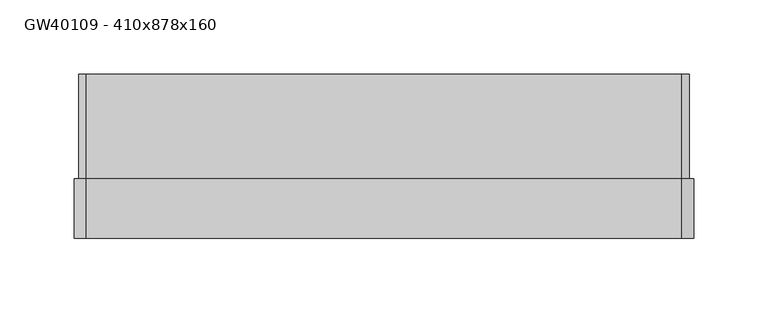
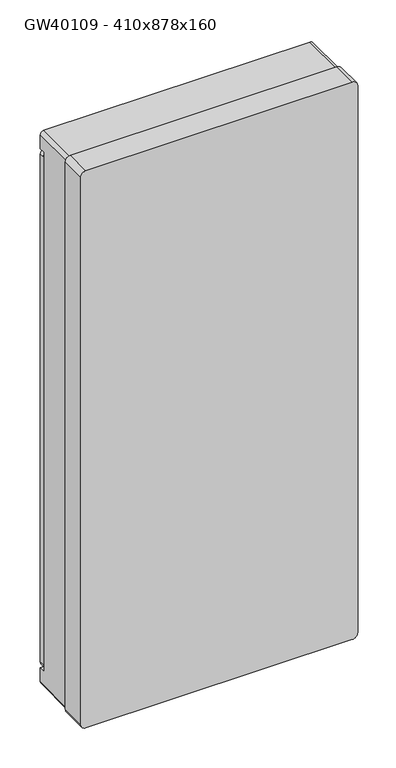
"""IFC4 building model written with IfcOpenShell, lengths in millimetres: proxy geometry, Building-ContenitoriParete-GEWISS-40CDK-CENTRALINI_IP65_4X : GW40109 - 410x878x160."""

import ifcopenshell
import ifcopenshell.guid

model = None  # the IFC model being written
_history = None  # IfcOwnerHistory: only IFC2X3 demands one
_inside = {}  # id of a spatial element -> (the spatial element, [elements in it])
_under = {}  # id of a project, library or spatial element -> (it, [spatial elements below it])
_declared = {}  # id of a project -> (the project, [libraries it declares])
_typed = {}  # id of a type object -> (the type object, [elements of that type])
_made_of = {}  # id of a material, layer set ... -> (it, [elements and type objects made of it])


def new_model(schema):
    """Start an empty IFC model of exactly this schema.

    Asked for "IFC4X3", IfcOpenShell would pick the latest addendum, in which some entities
    have other attributes; the version numbers below select the first issue.
    IFC2X3 requires an IfcOwnerHistory on every rooted entity: one is made here for all.
    """
    global model, _history
    if schema == "IFC4X3":
        model = ifcopenshell.file(schema_version=(4, 3, 0, 0))
    else:
        model = ifcopenshell.file(schema=schema)
    _inside.clear()
    _under.clear()
    _declared.clear()
    _typed.clear()
    _made_of.clear()
    _history = None
    if model.schema == "IFC2X3":
        org = make("IfcOrganization", Name="unknown")
        user = make(
            "IfcPersonAndOrganization",
            ThePerson=make("IfcPerson", FamilyName="unknown"),
            TheOrganization=org,
        )
        app = make(
            "IfcApplication",
            ApplicationDeveloper=org,
            Version="unknown",
            ApplicationFullName="unknown",
            ApplicationIdentifier="unknown",
        )
        _history = make(
            "IfcOwnerHistory",
            OwningUser=user,
            OwningApplication=app,
            ChangeAction="ADDED",
            CreationDate=0,
        )
    return model


def make(cls, **values):
    """One entity of the class cls with the attributes given. An attribute that is None is left unset."""
    return model.create_entity(
        cls, **{name: value for name, value in values.items() if value is not None}
    )


def rooted(cls, **values):
    """An entity with a GlobalId (a new one), such as an element, a storey or a relation."""
    return make(cls, GlobalId=ifcopenshell.guid.new(), OwnerHistory=_history, **values)


def si_unit(unit_type, name, prefix=None):
    """IfcSIUnit, for example si_unit("LENGTHUNIT", "METRE", prefix="MILLI")."""
    return make("IfcSIUnit", UnitType=unit_type, Prefix=prefix, Name=name)


def assignment(units):
    """IfcUnitAssignment: the units of a project."""
    return None if units is None else make("IfcUnitAssignment", Units=units)


def point(xyz):
    """IfcCartesianPoint."""
    return None if xyz is None else make("IfcCartesianPoint", Coordinates=xyz)


def direction(xyz):
    """IfcDirection."""
    return None if xyz is None else make("IfcDirection", DirectionRatios=xyz)


def frame(location, z_axis=None, x_axis=None):
    """IfcAxis2Placement3D, a coordinate frame: its origin and axes. An axis left out is left unset."""
    return make(
        "IfcAxis2Placement3D",
        Location=point(location),
        Axis=direction(z_axis),
        RefDirection=direction(x_axis),
    )


def frame_2d(location, x_axis=None):
    """IfcAxis2Placement2D, a coordinate frame in the plane: its origin and x axis."""
    return make(
        "IfcAxis2Placement2D", Location=point(location), RefDirection=direction(x_axis)
    )


def origin():
    """The frame at (0, 0, 0) with its axes left unset."""
    return frame((0.0, 0.0, 0.0))


def place(relative_to, where):
    """IfcLocalPlacement: puts the frame where relative to a parent placement (None: the world)."""
    return make(
        "IfcLocalPlacement", PlacementRelTo=relative_to, RelativePlacement=where
    )


def context(
    kind, dimensions, precision=None, world=None, true_north=None, identifier=None
):
    """IfcGeometricRepresentationContext, for example the 3D "Model" context."""
    return make(
        "IfcGeometricRepresentationContext",
        ContextIdentifier=identifier,
        ContextType=kind,
        CoordinateSpaceDimension=dimensions,
        Precision=precision,
        WorldCoordinateSystem=world,
        TrueNorth=true_north,
    )


def project(units=None, contexts=None):
    """IfcProject with its units and contexts."""
    return rooted(
        "IfcProject",
        Name="project",
        RepresentationContexts=contexts,
        UnitsInContext=assignment(units),
    )


def spatial(cls, under=None, at=None, **own):
    """A site, building, storey or space (cls), placed at a placement, below another one or the project."""
    s = rooted(cls, ObjectPlacement=at, **own)
    if under is not None:
        _under.setdefault(under.id(), (under, []))[1].append(s)
    return s


def polyline(points):
    """IfcPolyline through the points."""
    return make("IfcPolyline", Points=[point(p) for p in points])


def circle_curve(where, radius):
    """IfcCircle in the frame where."""
    return make("IfcCircle", Position=where, Radius=radius)


def trimmed(basis, trim1, trim2, sense, master):
    """IfcTrimmedCurve: the piece of a basis curve between two trims."""
    return make(
        "IfcTrimmedCurve",
        BasisCurve=basis,
        Trim1=trim1,
        Trim2=trim2,
        SenseAgreement=sense,
        MasterRepresentation=master,
    )


def segment(curve, same_sense, transition):
    """IfcCompositeCurveSegment."""
    return make(
        "IfcCompositeCurveSegment",
        Transition=transition,
        SameSense=same_sense,
        ParentCurve=curve,
    )


def composite_curve(segments, self_intersect=None):
    """IfcCompositeCurve: segments joined end to end."""
    return make("IfcCompositeCurve", Segments=segments, SelfIntersect=self_intersect)


def outline(outer, holes=None, kind="AREA"):
    """IfcArbitraryClosedProfileDef: a profile drawn as a closed curve; with holes, ...WithVoids."""
    if holes is None:
        return make("IfcArbitraryClosedProfileDef", ProfileType=kind, OuterCurve=outer)
    return make(
        "IfcArbitraryProfileDefWithVoids",
        ProfileType=kind,
        OuterCurve=outer,
        InnerCurves=holes,
    )


def extrude(swept, where, along, depth):
    """IfcExtrudedAreaSolid: the profile swept, set in the frame where, extruded along a direction by depth."""
    return make(
        "IfcExtrudedAreaSolid",
        SweptArea=swept,
        Position=where,
        ExtrudedDirection=direction(along),
        Depth=depth,
    )


def shape(context_of_items, identifier, shape_type, items):
    """IfcShapeRepresentation: the items that make up one representation, for example the "Body"."""
    return make(
        "IfcShapeRepresentation",
        ContextOfItems=context_of_items,
        RepresentationIdentifier=identifier,
        RepresentationType=shape_type,
        Items=items,
    )


def source(mapping_origin, context_of_items, identifier, shape_type, items):
    """IfcRepresentationMap: a shape defined once, which mapped items show again and again."""
    return make(
        "IfcRepresentationMap",
        MappingOrigin=mapping_origin,
        MappedRepresentation=shape(context_of_items, identifier, shape_type, items),
    )


def transform(
    local_origin,
    x_axis=None,
    y_axis=None,
    z_axis=None,
    scale=None,
    scale2=None,
    scale3=None,
    uniform=True,
):
    """IfcCartesianTransformationOperator3D, or its non-uniform kind. x_axis, y_axis, z_axis: its Axis1, 2, 3."""
    if uniform:
        return make(
            "IfcCartesianTransformationOperator3D",
            Axis1=direction(x_axis),
            Axis2=direction(y_axis),
            LocalOrigin=point(local_origin),
            Scale=scale,
            Axis3=direction(z_axis),
        )
    return make(
        "IfcCartesianTransformationOperator3DnonUniform",
        Axis1=direction(x_axis),
        Axis2=direction(y_axis),
        LocalOrigin=point(local_origin),
        Scale=scale,
        Axis3=direction(z_axis),
        Scale2=scale2,
        Scale3=scale3,
    )


def mapped(mapping_source, mapping_target):
    """IfcMappedItem: shows the shape of a source again, moved by a transform."""
    return make(
        "IfcMappedItem", MappingSource=mapping_source, MappingTarget=mapping_target
    )


def made_of(thing, what):
    """Note that an element or type object is made of a material, layer set ...; save() writes the relation."""
    if what is not None:
        _made_of.setdefault(what.id(), (what, []))[1].append(thing)
    return thing


def element(
    cls,
    number,
    at=None,
    inside=None,
    cuts=None,
    type_object=None,
    material=None,
    context=None,
    identifier="Body",
    shape_type=None,
    held_by="IfcProductDefinitionShape",
    body=None,
    shapes=None,
    **own,
):
    """One element of the class cls, such as IfcWall. Its Tag is "e" and its number.

    at: its placement. inside: the storey or other place that contains it. cuts: it is an
    opening in that element (IfcRelVoidsElement). A single representation is given by context,
    identifier, shape_type and body (its items); several are given by shapes. held_by: the class
    of the entity that holds the representations. save() writes the other relations.
    """
    e = rooted(cls, Tag="e%d" % number, ObjectPlacement=at, **own)
    if body is not None:
        shapes = [shape(context, identifier, shape_type, body)]
    if shapes is not None:
        e.Representation = make(held_by, Representations=shapes)
    if inside is not None:
        _inside.setdefault(inside.id(), (inside, []))[1].append(e)
    if cuts is not None:
        rooted(
            "IfcRelVoidsElement", RelatingBuildingElement=cuts, RelatedOpeningElement=e
        )
    if type_object is not None:
        _typed.setdefault(type_object.id(), (type_object, []))[1].append(e)
    return made_of(e, material)


def aggregate(whole, parts):
    """IfcRelAggregates: a whole, such as a stair, and the parts it consists of."""
    return rooted("IfcRelAggregates", RelatingObject=whole, RelatedObjects=parts)


def save(model, path):
    """Write the relations noted so far, then the file.

    IfcRelAggregates (storeys below a building ...), IfcRelContainedInSpatialStructure (elements
    in a storey), IfcRelDefinesByType, IfcRelAssociatesMaterial and IfcRelDeclares: one each for
    every whole, place, type object, material and project.
    """
    for whole, parts in _under.values():
        aggregate(whole, parts)
    for where, things in _inside.values():
        rooted(
            "IfcRelContainedInSpatialStructure",
            RelatedElements=things,
            RelatingStructure=where,
        )
    for kind, things in _typed.values():
        rooted("IfcRelDefinesByType", RelatedObjects=things, RelatingType=kind)
    for what, things in _made_of.values():
        rooted("IfcRelAssociatesMaterial", RelatedObjects=things, RelatingMaterial=what)
    for by, libraries in _declared.values():
        rooted("IfcRelDeclares", RelatingContext=by, RelatedDefinitions=libraries)
    model.write(path)


def plane_surface(at):
    """IfcPlane: the flat surface through the origin of the frame at, square to its z axis."""
    return make("IfcPlane", Position=at)


def cylinder_surface(at, radius):
    """IfcCylindricalSurface: all points at the distance radius from the z axis of the frame at."""
    return make("IfcCylindricalSurface", Position=at, Radius=radius)


def revolved_surface(curve, axis_point, axis_direction):
    """IfcSurfaceOfRevolution: the curve turned about the line through axis_point along axis_direction."""
    return make(
        "IfcSurfaceOfRevolution",
        SweptCurve=make("IfcArbitraryOpenProfileDef", ProfileType="CURVE", Curve=curve),
        AxisPosition=make("IfcAxis1Placement", Location=point(axis_point), Axis=direction(axis_direction)),
    )


def advanced_brep(points, edges, surfaces, faces):
    """IfcAdvancedBrep: a solid bounded by faces that lie on surfaces and meet in shared edges.

    An edge is (start, end): straight between two places in points (the first is 0);
    or (start, end, curve); or (start, end, curve, False) where it runs against its curve.
    A face is (place in surfaces, loops), or (place, loops, False) where it looks against
    its surface's normal. A loop lists edges by number (the first is 1), with a minus sign
    where the edge is run from its end to its start. The first loop is the outer one.
    """
    corners = [point(p) for p in points]
    vertices = [make("IfcVertexPoint", VertexGeometry=c) for c in corners]
    made = []
    for start, end, *more in edges:
        made.append(
            make(
                "IfcEdgeCurve",
                EdgeStart=vertices[start],
                EdgeEnd=vertices[end],
                EdgeGeometry=more[0] if more else make("IfcPolyline", Points=[corners[start], corners[end]]),
                SameSense=more[1] if len(more) > 1 else True,
            )
        )
    hull = []
    for where, loops, *sense in faces:
        bounds = []
        for j, loop in enumerate(loops):
            ring = [make("IfcOrientedEdge", EdgeElement=made[abs(k) - 1], Orientation=k > 0) for k in loop]
            bounds.append(
                make(
                    "IfcFaceOuterBound" if j == 0 else "IfcFaceBound",
                    Bound=make("IfcEdgeLoop", EdgeList=ring),
                    Orientation=True,
                )
            )
        hull.append(make("IfcAdvancedFace", Bounds=bounds, FaceSurface=surfaces[where], SameSense=sense[0] if sense else True))
    return make("IfcAdvancedBrep", Outer=make("IfcClosedShell", CfsFaces=hull))


def gw40109_410x878x160_c00fe912(model_context):
    return source(origin(), model_context, "Body", "SolidModel", [
        extrude(outline(composite_curve([segment(trimmed(circle_curve(frame_2d((1011.3733724, -40.3733724)), 19.6266276), [point((1031.0, -40.3733724))], [point((1011.3733724, -60.0))], False, "CARTESIAN"), True, "CONTINUOUS"), segment(polyline([(1011.3733724, -60.0), (266.6266276, -60.0)]), True, "CONTINUOUS"), segment(trimmed(circle_curve(frame_2d((266.6266276, -40.3733724)), 19.6266276), [point((266.6266276, -60.0))], [point((247.0, -40.3733724))], False, "CARTESIAN"), True, "CONTINUOUS"), segment(polyline([(247.0, -40.3733724), (247.0, 290.3733724)]), True, "CONTINUOUS"), segment(trimmed(circle_curve(frame_2d((266.6266276, 290.3733724)), 19.6266276), [point((247.0, 290.3733724))], [point((266.6266276, 310.0))], False, "CARTESIAN"), True, "CONTINUOUS"), segment(polyline([(266.6266276, 310.0), (1011.3733724, 310.0)]), True, "CONTINUOUS"), segment(trimmed(circle_curve(frame_2d((1011.3733724, 290.3733724)), 19.6266276), [point((1011.3733724, 310.0))], [point((1031.0, 290.3733724))], False, "CARTESIAN"), True, "CONTINUOUS"), segment(polyline([(1031.0, 290.3733724), (1031.0, -40.3733724)]), True, "CONTINUOUS")], self_intersect=False)), frame((0.0, 157.0, 0.0), z_axis=(0.0, 1.0, 0.0), x_axis=(0.0, 0.0, 1.0)), (0.0, 0.0, 1.0), 8.0),
        extrude(outline(composite_curve([segment(polyline([(1042.0809704, -80.0), (236.5623013, -80.0)]), True, "CONTINUOUS"), segment(trimmed(circle_curve(frame_2d((236.7791514, -70.2214952)), 9.780909), [point((236.5623013, -80.0))], [point((227.0, -70.4069096))], False, "CARTESIAN"), True, "CONTINUOUS"), segment(polyline([(227.0, -70.4069096), (227.0, 320.4151612)]), True, "CONTINUOUS"), segment(trimmed(circle_curve(frame_2d((236.775005, 320.2255854)), 9.7768431), [point((227.0, 320.4151612))], [point((236.5571034, 330.0))], False, "CARTESIAN"), True, "CONTINUOUS"), segment(polyline([(236.5571034, 330.0), (1041.9353881, 330.0)]), True, "CONTINUOUS"), segment(trimmed(circle_curve(frame_2d((1041.1918726, 320.2188831)), 9.8093355), [point((1041.9353881, 330.0))], [point((1051.0, 320.3728351))], False, "CARTESIAN"), True, "CONTINUOUS"), segment(polyline([(1051.0, 320.3728351), (1051.0, -70.379739)]), True, "CONTINUOUS"), segment(trimmed(circle_curve(frame_2d((1041.1876797, -70.2272359)), 9.8135053), [point((1051.0, -70.379739))], [point((1042.0809704, -80.0))], False, "CARTESIAN"), True, "CONTINUOUS")], self_intersect=False), holes=[composite_curve([segment(trimmed(circle_curve(frame_2d((1011.3733724, -40.3733724)), 19.6266276), [point((1011.3733724, -60.0))], [point((1031.0, -40.3733724))], True, "CARTESIAN"), True, "CONTINUOUS"), segment(polyline([(1031.0, -40.3733724), (1031.0, 290.3733724)]), True, "CONTINUOUS"), segment(trimmed(circle_curve(frame_2d((1011.3733724, 290.3733724)), 19.6266276), [point((1031.0, 290.3733724))], [point((1011.3733724, 310.0))], True, "CARTESIAN"), True, "CONTINUOUS"), segment(polyline([(1011.3733724, 310.0), (266.6266276, 310.0)]), True, "CONTINUOUS"), segment(trimmed(circle_curve(frame_2d((266.6266276, 290.3733724)), 19.6266276), [point((266.6266276, 310.0))], [point((247.0, 290.3733724))], True, "CARTESIAN"), True, "CONTINUOUS"), segment(polyline([(247.0, 290.3733724), (247.0, -40.3733724)]), True, "CONTINUOUS"), segment(trimmed(circle_curve(frame_2d((266.6266276, -40.3733724)), 19.6266276), [point((247.0, -40.3733724))], [point((266.6266276, -60.0))], True, "CARTESIAN"), True, "CONTINUOUS"), segment(polyline([(266.6266276, -60.0), (1011.3733724, -60.0)]), True, "CONTINUOUS")], self_intersect=False)]), frame((0.0, 157.0, 0.0), z_axis=(0.0, 1.0, 0.0), x_axis=(0.0, 0.0, 1.0)), (0.0, 0.0, 1.0), 8.0),
        extrude(outline(polyline([(1038.7618764, -62.8522893), (242.2618764, -62.8522893), (242.2618764, 312.8522893), (1038.7618764, 312.8522893), (1038.7618764, -62.8522893)]), holes=[polyline([(880.0, -33.0), (925.6623342, -33.0), (925.6623342, 283.0), (880.0, 283.0), (880.0, -33.0)]), polyline([(705.0, -33.0), (751.0, -33.0), (751.0, 283.0), (705.0, 283.0), (705.0, -33.0)]), polyline([(530.0, -33.0), (576.0, -33.0), (576.0, 283.0), (530.0, 283.0), (530.0, -33.0)]), polyline([(355.0, -33.0), (401.0, -33.0), (401.0, 283.0), (355.0, 283.0), (355.0, -33.0)])]), frame((0.0, 153.1667604, 0.0), z_axis=(0.0, 1.0, 0.0), x_axis=(0.0, 0.0, 1.0)), (0.0, 0.0, 1.0), 1.8332396),
        advanced_brep(
        [(-80.0, 165.0, 1051.0), (-80.0, 165.0, 1073.2013426), (-75.2013428, 165.0, 1077.9999999), (325.2013423, 165.0, 1077.9999999), (330.0, 165.0, 1073.2013422), (330.0, 165.0, 1051.0), (-75.2013425, 165.0, 200.0), (-80.0, 165.0, 204.7986575), (-80.0, 165.0, 227.0), (330.0, 165.0, 227.0), (330.0, 165.0, 204.7986577), (325.2013423, 165.0, 200.0), (330.0, 155.0, 1051.0), (-80.0, 155.0, 1051.0), (330.0, 95.0, 1073.2013422), (330.0, 95.0, 204.7986577), (330.0, 155.0, 227.0), (325.2013423, 95.0, 1077.9999999), (-75.2013428, 95.0, 1077.9999999), (-80.0, 95.0, 1073.2013426), (-80.0, 155.0, 227.0), (-80.0, 95.0, 204.7986575), (325.2013423, 95.0, 200.0), (-75.2013425, 95.0, 200.0), (-54.4460592, 155.0, 1040.7618764), (-64.8522893, 155.0, 1030.3556463), (-64.8522893, 155.0, 250.6618764), (-54.4522893, 155.0, 240.2618764), (304.4522893, 155.0, 240.2618764), (314.8522893, 155.0, 250.6618764), (314.8522893, 155.0, 1030.3556463), (304.4460592, 155.0, 1040.7618764), (304.4460592, 95.0, 1040.7618764), (-54.4460592, 95.0, 1040.7618764), (314.8522893, 95.0, 1030.3556463), (314.8522893, 95.0, 250.6618764), (304.4522893, 95.0, 240.2618764), (-54.4522893, 95.0, 240.2618764), (-64.8522893, 95.0, 250.6618764), (-64.8522893, 95.0, 1030.3556463), (333.0, 55.0, 1073.2013423), (325.2013423, 55.0, 1081.0), (-75.2013428, 55.0, 1081.0), (-83.0, 55.0, 1073.2013428), (-83.0, 55.0, 204.7986575), (-75.2013425, 55.0, 197.0), (325.2013423, 55.0, 197.0), (333.0, 55.0, 204.7986577), (333.0, 95.0, 1073.2013423), (333.0, 95.0, 204.7986577), (325.2013423, 95.0, 197.0), (-75.2013425, 95.0, 197.0), (-83.0, 95.0, 204.7986575), (-83.0, 95.0, 1073.2013428), (-75.2013428, 95.0, 1081.0), (325.2013423, 95.0, 1081.0)],
        [
            (0, 1),
            (1, 2, circle_curve(frame((-75.2013428, 165.0, 1073.2013426), z_axis=(0.0, 1.0, 0.0), x_axis=(1.0, 0.0, 0.0)), 4.7986572)),
            (2, 3),
            (3, 4, circle_curve(frame((325.2013423, 165.0, 1073.2013422), z_axis=(0.0, 1.0, 0.0), x_axis=(1.0, 0.0, 0.0)), 4.7986577)),
            (4, 5),
            (5, 0),
            (6, 7, circle_curve(frame((-75.2013425, 165.0, 204.7986575), z_axis=(0.0, 1.0, 0.0), x_axis=(1.0, 0.0, 0.0)), 4.7986575)),
            (7, 8),
            (8, 9),
            (9, 10),
            (10, 11, circle_curve(frame((325.2013423, 165.0, 204.7986577), z_axis=(0.0, 1.0, 0.0), x_axis=(1.0, 0.0, 0.0)), 4.7986577)),
            (11, 6),
            (5, 12),
            (12, 13),
            (13, 0),
            (4, 14),
            (14, 15),
            (15, 10),
            (9, 16),
            (16, 12),
            (3, 17),
            (17, 14, circle_curve(frame((325.2013423, 95.0, 1073.2013422), z_axis=(0.0, 1.0, 0.0), x_axis=(1.0, 0.0, 0.0)), 4.7986577)),
            (2, 18),
            (18, 17),
            (1, 19),
            (19, 18, circle_curve(frame((-75.2013428, 95.0, 1073.2013426), z_axis=(0.0, 1.0, 0.0), x_axis=(1.0, 0.0, 0.0)), 4.7986572)),
            (13, 20),
            (20, 8),
            (7, 21),
            (21, 19),
            (11, 22),
            (22, 23),
            (23, 6),
            (15, 22, circle_curve(frame((325.2013423, 95.0, 204.7986577), z_axis=(0.0, 1.0, 0.0), x_axis=(1.0, 0.0, 0.0)), 4.7986577)),
            (20, 16),
            (23, 21, circle_curve(frame((-75.2013425, 95.0, 204.7986575), z_axis=(0.0, 1.0, 0.0), x_axis=(1.0, 0.0, 0.0)), 4.7986575)),
            (24, 25, circle_curve(frame((-54.4460592, 155.0, 1030.3556463), z_axis=(0.0, -1.0, 0.0), x_axis=(1.0, 0.0, 0.0)), 10.40623)),
            (25, 26),
            (26, 27, circle_curve(frame((-54.4522893, 155.0, 250.6618764), z_axis=(0.0, -1.0, 0.0), x_axis=(1.0, 0.0, 0.0)), 10.4)),
            (27, 28),
            (28, 29, circle_curve(frame((304.4522893, 155.0, 250.6618764), z_axis=(0.0, -1.0, 0.0), x_axis=(1.0, 0.0, 0.0)), 10.4)),
            (29, 30),
            (30, 31, circle_curve(frame((304.4460592, 155.0, 1030.3556463), z_axis=(0.0, -1.0, 0.0), x_axis=(1.0, 0.0, 0.0)), 10.40623)),
            (31, 24),
            (31, 32),
            (32, 33),
            (33, 24),
            (30, 34),
            (34, 32, circle_curve(frame((304.4460592, 95.0, 1030.3556463), z_axis=(0.0, -1.0, 0.0), x_axis=(1.0, 0.0, 0.0)), 10.40623)),
            (29, 35),
            (35, 34),
            (28, 36),
            (36, 35, circle_curve(frame((304.4522893, 95.0, 250.6618764), z_axis=(0.0, -1.0, 0.0), x_axis=(1.0, 0.0, 0.0)), 10.4)),
            (27, 37),
            (37, 36),
            (26, 38),
            (38, 37, circle_curve(frame((-54.4522893, 95.0, 250.6618764), z_axis=(0.0, -1.0, 0.0), x_axis=(1.0, 0.0, 0.0)), 10.4)),
            (25, 39),
            (39, 38),
            (33, 39, circle_curve(frame((-54.4460592, 95.0, 1030.3556463), z_axis=(0.0, -1.0, 0.0), x_axis=(1.0, 0.0, 0.0)), 10.40623)),
            (40, 41, circle_curve(frame((325.2013423, 55.0, 1073.2013423), z_axis=(0.0, -1.0, 0.0), x_axis=(1.0, 0.0, 0.0)), 7.7986577)),
            (41, 42),
            (42, 43, circle_curve(frame((-75.2013428, 55.0, 1073.2013428), z_axis=(0.0, -1.0, 0.0), x_axis=(1.0, 0.0, 0.0)), 7.7986572)),
            (43, 44),
            (44, 45, circle_curve(frame((-75.2013425, 55.0, 204.7986575), z_axis=(0.0, -1.0, 0.0), x_axis=(1.0, 0.0, 0.0)), 7.7986575)),
            (45, 46),
            (46, 47, circle_curve(frame((325.2013423, 55.0, 204.7986577), z_axis=(0.0, -1.0, 0.0), x_axis=(1.0, 0.0, 0.0)), 7.7986577)),
            (47, 40),
            (48, 49),
            (49, 50, circle_curve(frame((325.2013423, 95.0, 204.7986577), z_axis=(0.0, 1.0, 0.0), x_axis=(1.0, 0.0, 0.0)), 7.7986577)),
            (50, 51),
            (51, 52, circle_curve(frame((-75.2013425, 95.0, 204.7986575), z_axis=(0.0, 1.0, 0.0), x_axis=(1.0, 0.0, 0.0)), 7.7986575)),
            (52, 53),
            (53, 54, circle_curve(frame((-75.2013428, 95.0, 1073.2013428), z_axis=(0.0, 1.0, 0.0), x_axis=(1.0, 0.0, 0.0)), 7.7986572)),
            (54, 55),
            (55, 48, circle_curve(frame((325.2013423, 95.0, 1073.2013423), z_axis=(0.0, 1.0, 0.0), x_axis=(1.0, 0.0, 0.0)), 7.7986577)),
            (40, 48),
            (55, 41),
            (54, 42),
            (53, 43),
            (52, 44),
            (51, 45),
            (50, 46),
            (49, 47),
        ],
        [
            plane_surface(frame((330.0, 165.0, 1051.0), z_axis=(0.0, 1.0, 0.0), x_axis=(-1.0, 0.0, 0.0))),
            plane_surface(frame((-80.0, 95.0, 1051.0), z_axis=(0.0, 0.0, -1.0), x_axis=(0.0, 1.0, 0.0))),
            plane_surface(frame((330.0, 95.0, 1051.0), z_axis=(1.0, 0.0, -5.432298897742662e-12), x_axis=(0.0, 1.0, 0.0))),
            cylinder_surface(frame((325.2013423, 165.0, 1073.2013422), z_axis=(0.0, -1.0, 0.0), x_axis=(1.0, 0.0, 0.0)), 4.7986577),
            plane_surface(frame((325.2013423, 95.0, 1077.9999999), z_axis=(0.0, 0.0, 1.0), x_axis=(0.0, 1.0, 0.0))),
            cylinder_surface(frame((-75.2013428, 165.0, 1073.2013426), z_axis=(0.0, -1.0, 0.0), x_axis=(1.0, 0.0, 0.0)), 4.7986572),
            plane_surface(frame((-80.0, 95.0, 1073.2013426), z_axis=(-1.0, 0.0, 0.0), x_axis=(0.0, 1.0, 0.0))),
            plane_surface(frame((-75.2013425, 95.0, 200.0), z_axis=(0.0, 0.0, -1.0), x_axis=(0.0, 1.0, 0.0))),
            cylinder_surface(frame((325.2013423, 0.0, 204.7986577), z_axis=(0.0, -1.0, 0.0), x_axis=(1.0, 0.0, 0.0)), 4.7986577),
            plane_surface(frame((330.0, 95.0, 227.0), z_axis=(0.0, 0.0, 1.0), x_axis=(0.0, 1.0, 0.0))),
            cylinder_surface(frame((-75.2013425, 0.0, 204.7986575), z_axis=(0.0, -1.0, 0.0), x_axis=(1.0, 0.0, 0.0)), 4.7986575),
            plane_surface(frame((-80.0, 155.0, 1051.0), z_axis=(0.0, 1.0, 0.0), x_axis=(0.0, 0.0, 1.0))),
            plane_surface(frame((-54.4460592, 95.0, 1040.7618764), z_axis=(0.0, 0.0, -1.0), x_axis=(0.0, 1.0, 0.0))),
            revolved_surface(polyline([(314.8522892, 155.0, 1030.3556463), (314.8522892, 95.0, 1030.3556463)]), (304.4460592, 0.0, 1030.3556463), (0.0, 1.0, 0.0)),
            plane_surface(frame((314.8522893, 95.0, 1030.3556463), z_axis=(-1.0, 0.0, 0.0), x_axis=(0.0, 1.0, 0.0))),
            revolved_surface(polyline([(314.8522893, 155.0, 250.6618764), (314.8522893, 95.0, 250.6618764)]), (304.4522893, 0.0, 250.6618764), (0.0, 1.0, 0.0)),
            plane_surface(frame((304.4522893, 95.0, 240.2618764), z_axis=(0.0, 0.0, 1.0), x_axis=(0.0, 1.0, 0.0))),
            revolved_surface(polyline([(-44.0522893, 155.0, 250.6618764), (-44.0522893, 95.0, 250.6618764)]), (-54.4522893, 0.0, 250.6618764), (0.0, 1.0, 0.0)),
            plane_surface(frame((-64.8522893, 95.0, 250.6618764), z_axis=(1.0, 0.0, 0.0), x_axis=(0.0, 1.0, 0.0))),
            revolved_surface(polyline([(-44.0398292, 155.0, 1030.3556463), (-44.0398292, 95.0, 1030.3556463)]), (-54.4460592, 0.0, 1030.3556463), (0.0, 1.0, 0.0)),
            plane_surface(frame((333.0, 55.0, 1073.2013423), z_axis=(0.0, -1.0, 0.0), x_axis=(0.0, 0.0, 1.0))),
            plane_surface(frame((333.0, 95.0, 1073.2013423), z_axis=(0.0, 1.0, 0.0), x_axis=(0.0, 0.0, -1.0))),
            cylinder_surface(frame((325.2013423, 95.0, 1073.2013423), z_axis=(0.0, -1.0, 0.0), x_axis=(1.0, 0.0, 0.0)), 7.7986577),
            plane_surface(frame((325.2013423, 55.0, 1081.0), z_axis=(0.0, 0.0, 1.0), x_axis=(0.0, 1.0, 0.0))),
            cylinder_surface(frame((-75.2013428, 95.0, 1073.2013428), z_axis=(0.0, -1.0, 0.0), x_axis=(1.0, 0.0, 0.0)), 7.7986572),
            plane_surface(frame((-83.0, 55.0, 1073.2013428), z_axis=(-1.0, 0.0, 0.0), x_axis=(0.0, 1.0, 0.0))),
            cylinder_surface(frame((-75.2013425, 95.0, 204.7986575), z_axis=(0.0, -1.0, 0.0), x_axis=(1.0, 0.0, 0.0)), 7.7986575),
            plane_surface(frame((-75.2013425, 55.0, 197.0), z_axis=(0.0, 0.0, -1.0), x_axis=(0.0, 1.0, 0.0))),
            cylinder_surface(frame((325.2013423, 95.0, 204.7986577), z_axis=(0.0, -1.0, 0.0), x_axis=(1.0, 0.0, 0.0)), 7.7986577),
            plane_surface(frame((333.0, 55.0, 204.7986577), z_axis=(1.0, 0.0, 0.0), x_axis=(0.0, 1.0, 0.0))),
        ],
        [
            (0, [[1, 2, 3, 4, 5, 6]]),
            (0, [[7, 8, 9, 10, 11, 12]]),
            (1, [[-6, 13, 14, 15]]),
            (2, [[-5, 16, 17, 18, -10, 19, 20, -13]]),
            (3, [[-4, 21, 22, -16]]),
            (4, [[-3, 23, 24, -21]]),
            (5, [[-2, 25, 26, -23]]),
            (6, [[-1, -15, 27, 28, -8, 29, 30, -25]]),
            (7, [[-12, 31, 32, 33]]),
            (8, [[-11, -18, 34, -31]]),
            (9, [[-9, -28, 35, -19]]),
            (10, [[-7, -33, 36, -29]]),
            (11, [[-20, -35, -27, -14], [37, 38, 39, 40, 41, 42, 43, 44]]),
            (12, [[-44, 45, 46, 47]]),
            (13, [[-43, 48, 49, -45]]),
            (14, [[-42, 50, 51, -48]]),
            (15, [[-41, 52, 53, -50]]),
            (16, [[-40, 54, 55, -52]]),
            (17, [[-39, 56, 57, -54]]),
            (18, [[-38, 58, 59, -56]]),
            (19, [[-37, -47, 60, -58]]),
            (20, [[61, 62, 63, 64, 65, 66, 67, 68]]),
            (21, [[-46, -49, -51, -53, -55, -57, -59, -60]]),
            (21, [[69, 70, 71, 72, 73, 74, 75, 76], [-17, -22, -24, -26, -30, -36, -32, -34]]),
            (22, [[-61, 77, -76, 78]]),
            (23, [[-62, -78, -75, 79]]),
            (24, [[-63, -79, -74, 80]]),
            (25, [[-64, -80, -73, 81]]),
            (26, [[-65, -81, -72, 82]]),
            (27, [[-66, -82, -71, 83]]),
            (28, [[-67, -83, -70, 84]]),
            (29, [[-68, -84, -69, -77]]),
        ],
    ),
        extrude(outline(composite_curve([segment(polyline([(1040.7618764, 304.4460592), (1040.7618764, -54.4460592)]), True, "CONTINUOUS"), segment(trimmed(circle_curve(frame_2d((1030.3556463, -54.4460592)), 10.40623), [point((1040.7618764, -54.4460592))], [point((1030.3556463, -64.8522893))], False, "CARTESIAN"), True, "CONTINUOUS"), segment(polyline([(1030.3556463, -64.8522893), (250.6618764, -64.8522893)]), True, "CONTINUOUS"), segment(trimmed(circle_curve(frame_2d((250.6618764, -54.4522893)), 10.4), [point((250.6618764, -64.8522893))], [point((240.2618764, -54.4522893))], False, "CARTESIAN"), True, "CONTINUOUS"), segment(polyline([(240.2618764, -54.4522893), (240.2618764, 304.4522893)]), True, "CONTINUOUS"), segment(trimmed(circle_curve(frame_2d((250.6618764, 304.4522893)), 10.4), [point((240.2618764, 304.4522893))], [point((250.6618764, 314.8522893))], False, "CARTESIAN"), True, "CONTINUOUS"), segment(polyline([(250.6618764, 314.8522893), (1030.3556463, 314.8522893)]), True, "CONTINUOUS"), segment(trimmed(circle_curve(frame_2d((1030.3556463, 304.4460592)), 10.40623), [point((1030.3556463, 314.8522893))], [point((1040.7618764, 304.4460592))], False, "CARTESIAN"), True, "CONTINUOUS")], self_intersect=False), holes=[composite_curve([segment(polyline([(1030.3556463, 312.8522893), (250.6618764, 312.8522893)]), True, "CONTINUOUS"), segment(trimmed(circle_curve(frame_2d((250.6618764, 304.4522893)), 8.4), [point((250.6618764, 312.8522893))], [point((242.2618764, 304.4522893))], True, "CARTESIAN"), True, "CONTINUOUS"), segment(polyline([(242.2618764, 304.4522893), (242.2618764, -54.4522893)]), True, "CONTINUOUS"), segment(trimmed(circle_curve(frame_2d((250.6618764, -54.4522893)), 8.4), [point((242.2618764, -54.4522893))], [point((250.6618764, -62.8522893))], True, "CARTESIAN"), True, "CONTINUOUS"), segment(polyline([(250.6618764, -62.8522893), (1030.3556463, -62.8522893)]), True, "CONTINUOUS"), segment(trimmed(circle_curve(frame_2d((1030.3556463, -54.4460592)), 8.40623), [point((1030.3556463, -62.8522893))], [point((1038.7618764, -54.4460592))], True, "CARTESIAN"), True, "CONTINUOUS"), segment(polyline([(1038.7618764, -54.4460592), (1038.7618764, 304.4460592)]), True, "CONTINUOUS"), segment(trimmed(circle_curve(frame_2d((1030.3556463, 304.4460592)), 8.40623), [point((1038.7618764, 304.4460592))], [point((1030.3556463, 312.8522893))], True, "CARTESIAN"), True, "CONTINUOUS")], self_intersect=False)]), frame((0.0, 153.1667604, 0.0), z_axis=(0.0, 1.0, 0.0), x_axis=(0.0, 0.0, 1.0)), (0.0, 0.0, 1.0), 1.8332396),
    ])


if __name__ == "__main__":
    model = new_model("IFC4")
    model_context = context("Model", 3, world=origin())
    ifc_project = project(units=[si_unit("LENGTHUNIT", "METRE", prefix="MILLI")], contexts=[model_context])
    site = spatial("IfcSite", under=ifc_project)
    building = spatial("IfcBuilding", under=site)
    placement = place(None, origin())
    gw40109_410x878x160_shape = gw40109_410x878x160_c00fe912(model_context)
    element("IfcBuildingElementProxy", 1, Name="Building-ContenitoriParete-GEWISS-40CDK-CENTRALINI_IP65_4X : GW40109 - 410x878x160", ObjectType="Building-ContenitoriParete-GEWISS-40CDK-CENTRALINI_IP65_4X : GW40109 - 410x878x160", at=placement, inside=building, context=model_context, shape_type="MappedRepresentation", body=[
        mapped(gw40109_410x878x160_shape, transform((0.0, 0.0, 0.0), x_axis=(1.0, 0.0, 0.0), y_axis=(0.0, 1.0, 0.0), z_axis=(0.0, 0.0, 1.0))),
    ])
    save(model, "model.ifc")
